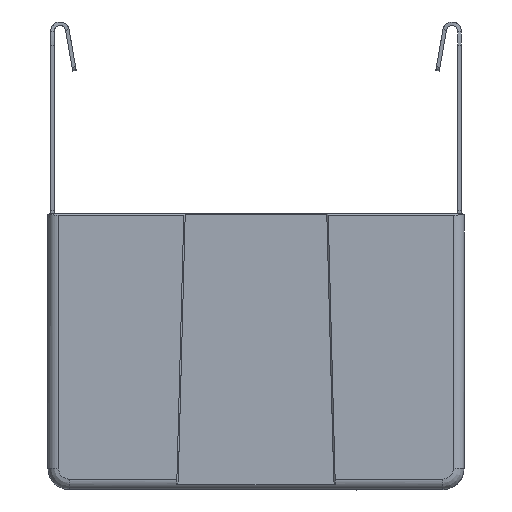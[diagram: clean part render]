
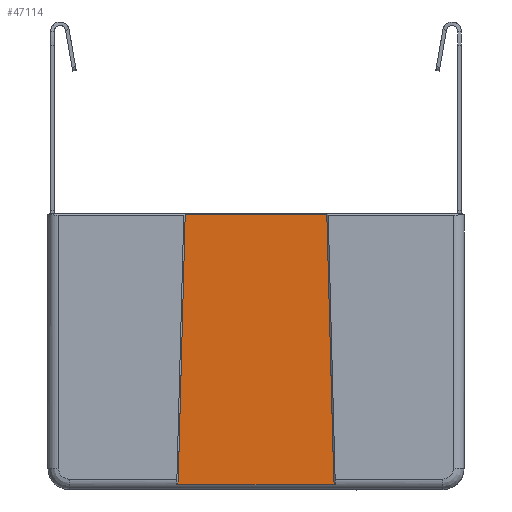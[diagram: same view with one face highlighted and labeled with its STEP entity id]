
A CAD part, left-side view. The second image highlights one B-rep face of the part: STEP entity #47114.
In plain terms, the highlighted planar face has unit normal (-1, 0, -0.018).
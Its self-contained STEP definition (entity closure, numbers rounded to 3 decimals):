
#160 = CARTESIAN_POINT ( 'NONE',  ( -14.24, 5.601, -23.112 ) ) ;
#192 = CARTESIAN_POINT ( 'NONE',  ( -14.24, -5.601, -23.112 ) ) ;
#437 = VERTEX_POINT ( 'NONE', #57495 ) ;
#1590 = DIRECTION ( 'NONE',  ( 0., -1., 0. ) ) ;
#4546 = VECTOR ( 'NONE', #75950, 1000. ) ;
#10777 = CARTESIAN_POINT ( 'NONE',  ( -14.24, 5.601, -23.112 ) ) ;
#12492 = VECTOR ( 'NONE', #48341, 1000. ) ;
#14197 = CARTESIAN_POINT ( 'NONE',  ( -14.242, -5.55, -23.017 ) ) ;
#17013 = PLANE ( 'NONE',  #89520 ) ;
#18215 = EDGE_LOOP ( 'NONE', ( #38238, #66254, #80528, #19550, #19493, #67771 ) ) ;
#18343 = CARTESIAN_POINT ( 'NONE',  ( -14.244, 5.512, -22.928 ) ) ;
#19493 = ORIENTED_EDGE ( 'NONE', *, *, #28576, .T. ) ;
#19550 = ORIENTED_EDGE ( 'NONE', *, *, #49631, .T. ) ;
#25294 = CARTESIAN_POINT ( 'NONE',  ( -14.233, -5.513, -23.529 ) ) ;
#28267 = EDGE_CURVE ( 'NONE', #53395, #73532, #92380, .T. ) ;
#28576 = EDGE_CURVE ( 'NONE', #83653, #53395, #71544, .T. ) ;
#29669 = VERTEX_POINT ( 'NONE', #55046 ) ;
#38046 = CARTESIAN_POINT ( 'NONE',  ( -14.242, 5.558, -23.035 ) ) ;
#38238 = ORIENTED_EDGE ( 'NONE', *, *, #89117, .T. ) ;
#40275 = VECTOR ( 'NONE', #1590, 1000. ) ;
#43348 = CARTESIAN_POINT ( 'NONE',  ( -14.241, -5.589, -23.093 ) ) ;
#43809 = CARTESIAN_POINT ( 'NONE',  ( -14.244, -5.496, -22.879 ) ) ;
#45652 = CARTESIAN_POINT ( 'NONE',  ( -14.575, -4.9, -3.937 ) ) ;
#46073 = CARTESIAN_POINT ( 'NONE',  ( -14.241, 5.578, -23.073 ) ) ;
#47114 = ADVANCED_FACE ( 'NONE', ( #81542 ), #17013, .T. ) ;
#47132 = CARTESIAN_POINT ( 'NONE',  ( -14.577, 4.997, -3.835 ) ) ;
#48341 = DIRECTION ( 'NONE',  ( -0.017, 0.026, 1. ) ) ;
#48966 = DIRECTION ( 'NONE',  ( 0., 1., 0. ) ) ;
#49631 = EDGE_CURVE ( 'NONE', #29669, #83653, #57907, .T. ) ;
#50866 = CARTESIAN_POINT ( 'NONE',  ( -14.243, -5.523, -22.957 ) ) ;
#53395 = VERTEX_POINT ( 'NONE', #192 ) ;
#53620 = CARTESIAN_POINT ( 'NONE',  ( -14.243, 5.524, -22.958 ) ) ;
#55046 = CARTESIAN_POINT ( 'NONE',  ( -14.244, 5.496, -22.879 ) ) ;
#56089 = CARTESIAN_POINT ( 'NONE',  ( -14.242, -5.546, -23.009 ) ) ;
#56545 = CARTESIAN_POINT ( 'NONE',  ( -14.242, -5.559, -23.035 ) ) ;
#57001 = CARTESIAN_POINT ( 'NONE',  ( -14.241, -5.573, -23.064 ) ) ;
#57495 = CARTESIAN_POINT ( 'NONE',  ( -14.573, -5.003, -4.037 ) ) ;
#57907 = B_SPLINE_CURVE_WITH_KNOTS ( 'NONE', 3,
 ( #82886, #68212, #18343, #53620, #75352, #74416, #38046, #46073, #10777 ),
 .UNSPECIFIED., .F., .F.,
 ( 4, 1, 2, 2, 4 ),
 ( 0., 0.25, 0.375, 0.5, 1. ),
 .UNSPECIFIED. ) ;
#62455 = EDGE_CURVE ( 'NONE', #78619, #29669, #83015, .T. ) ;
#66254 = ORIENTED_EDGE ( 'NONE', *, *, #86089, .T. ) ;
#66417 = VECTOR ( 'NONE', #48966, 1000. ) ;
#66878 = DIRECTION ( 'NONE',  ( 0.017, 0., -1. ) ) ;
#67771 = ORIENTED_EDGE ( 'NONE', *, *, #28267, .T. ) ;
#68166 = LINE ( 'NONE', #25294, #12492 ) ;
#68212 = CARTESIAN_POINT ( 'NONE',  ( -14.244, 5.502, -22.898 ) ) ;
#69288 = CARTESIAN_POINT ( 'NONE',  ( -14.24, -5.601, -23.112 ) ) ;
#70662 = LINE ( 'NONE', #93273, #66417 ) ;
#71544 = LINE ( 'NONE', #77268, #40275 ) ;
#73532 = VERTEX_POINT ( 'NONE', #90865 ) ;
#74416 = CARTESIAN_POINT ( 'NONE',  ( -14.242, 5.537, -22.989 ) ) ;
#74938 = DIRECTION ( 'NONE',  ( -1., 0., -0.017 ) ) ;
#75352 = CARTESIAN_POINT ( 'NONE',  ( -14.243, 5.532, -22.978 ) ) ;
#75950 = DIRECTION ( 'NONE',  ( 0.017, 0.026, -1. ) ) ;
#76942 = CARTESIAN_POINT ( 'NONE',  ( -14.573, 5.003, -4.037 ) ) ;
#77268 = CARTESIAN_POINT ( 'NONE',  ( -14.24, 5.502, -23.112 ) ) ;
#78619 = VERTEX_POINT ( 'NONE', #76942 ) ;
#79669 = CARTESIAN_POINT ( 'NONE',  ( -14.244, -5.508, -22.917 ) ) ;
#80528 = ORIENTED_EDGE ( 'NONE', *, *, #62455, .T. ) ;
#81542 = FACE_OUTER_BOUND ( 'NONE', #18215, .T. ) ;
#82886 = CARTESIAN_POINT ( 'NONE',  ( -14.244, 5.496, -22.879 ) ) ;
#83015 = LINE ( 'NONE', #47132, #4546 ) ;
#83653 = VERTEX_POINT ( 'NONE', #160 ) ;
#86089 = EDGE_CURVE ( 'NONE', #437, #78619, #70662, .T. ) ;
#89117 = EDGE_CURVE ( 'NONE', #73532, #437, #68166, .T. ) ;
#89520 = AXIS2_PLACEMENT_3D ( 'NONE', #45652, #74938, #66878 ) ;
#90865 = CARTESIAN_POINT ( 'NONE',  ( -14.244, -5.496, -22.879 ) ) ;
#92380 = B_SPLINE_CURVE_WITH_KNOTS ( 'NONE', 3,
 ( #69288, #43348, #57001, #56545, #14197, #56089, #50866, #79669, #43809 ),
 .UNSPECIFIED., .F., .F.,
 ( 4, 1, 2, 2, 4 ),
 ( 0., 0.25, 0.375, 0.5, 1. ),
 .UNSPECIFIED. ) ;
#93273 = CARTESIAN_POINT ( 'NONE',  ( -14.573, 5., -4.037 ) ) ;
